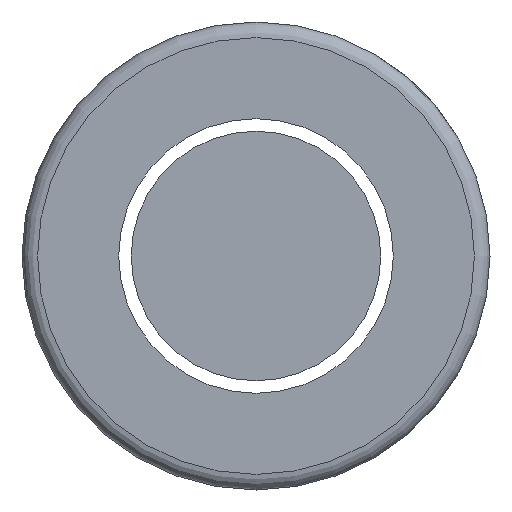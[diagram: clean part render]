
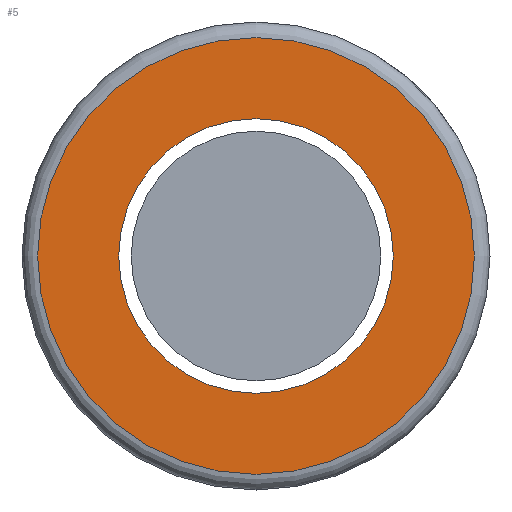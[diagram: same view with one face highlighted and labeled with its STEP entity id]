
A CAD part, left-side view. The second image highlights one B-rep face of the part: STEP entity #5.
In plain terms, the highlighted planar face has unit normal (-1, 0, 0).
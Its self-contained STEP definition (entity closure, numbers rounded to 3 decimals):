
#5 = ADVANCED_FACE ( 'NONE', ( #44, #513 ), #83, .T. ) ;
#37 = CARTESIAN_POINT ( 'NONE',  ( -40., 15., 0. ) ) ;
#44 = FACE_OUTER_BOUND ( 'NONE', #232, .T. ) ;
#46 = AXIS2_PLACEMENT_3D ( 'NONE', #37, #250, #434 ) ;
#58 = CIRCLE ( 'NONE', #474, 8.8 ) ;
#82 = DIRECTION ( 'NONE',  ( 1., 0., 0. ) ) ;
#83 = PLANE ( 'NONE',  #46 ) ;
#103 = DIRECTION ( 'NONE',  ( 0., 0., 1. ) ) ;
#157 = AXIS2_PLACEMENT_3D ( 'NONE', #338, #587, #103 ) ;
#168 = EDGE_CURVE ( 'NONE', #601, #601, #309, .T. ) ;
#173 = EDGE_LOOP ( 'NONE', ( #340 ) ) ;
#175 = CARTESIAN_POINT ( 'NONE',  ( -40., 0., 14. ) ) ;
#185 = CARTESIAN_POINT ( 'NONE',  ( -40., 0., 0. ) ) ;
#232 = EDGE_LOOP ( 'NONE', ( #458 ) ) ;
#241 = VERTEX_POINT ( 'NONE', #245 ) ;
#245 = CARTESIAN_POINT ( 'NONE',  ( -40., 0., -8.8 ) ) ;
#250 = DIRECTION ( 'NONE',  ( -1., 0., 0. ) ) ;
#309 = CIRCLE ( 'NONE', #157, 14. ) ;
#338 = CARTESIAN_POINT ( 'NONE',  ( -40., 0., 0. ) ) ;
#340 = ORIENTED_EDGE ( 'NONE', *, *, #620, .T. ) ;
#420 = DIRECTION ( 'NONE',  ( 0., 0., -1. ) ) ;
#434 = DIRECTION ( 'NONE',  ( 0., 0., 1. ) ) ;
#458 = ORIENTED_EDGE ( 'NONE', *, *, #168, .T. ) ;
#474 = AXIS2_PLACEMENT_3D ( 'NONE', #185, #82, #420 ) ;
#513 = FACE_BOUND ( 'NONE', #173, .T. ) ;
#587 = DIRECTION ( 'NONE',  ( -1., 0., 0. ) ) ;
#601 = VERTEX_POINT ( 'NONE', #175 ) ;
#620 = EDGE_CURVE ( 'NONE', #241, #241, #58, .T. ) ;
